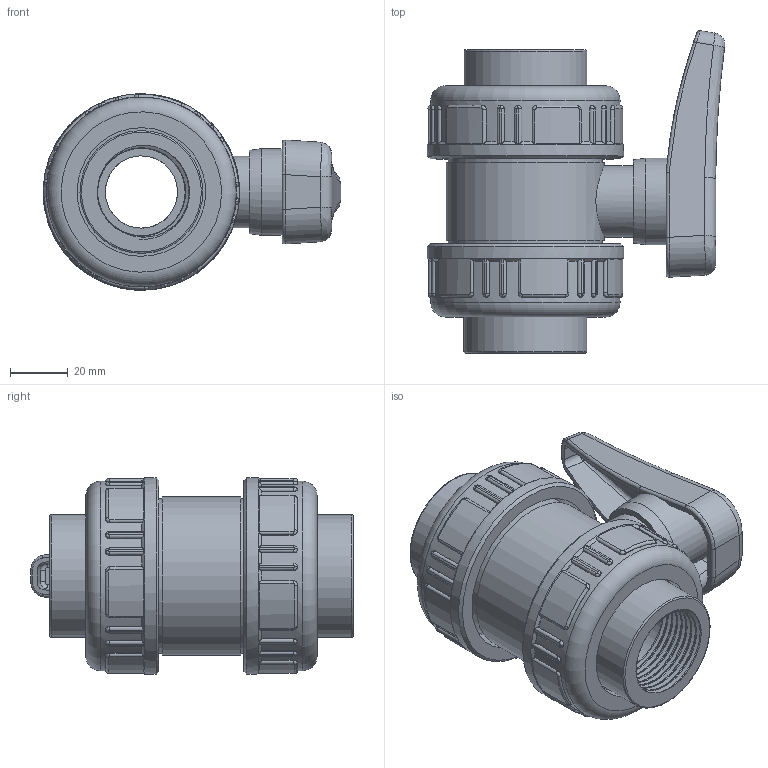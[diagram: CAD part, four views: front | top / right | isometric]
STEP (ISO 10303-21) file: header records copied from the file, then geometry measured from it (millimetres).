
FILE_DESCRIPTION(/* description */ (''),/* implementation_level */ '2;1');
FILE_NAME(/* name */ 'C:\Users\POLYPIPE\Desktop\DATASET INVENTOR\LIBRERIA EFFAST\3D_VALVOLE\3D_VALVOLE A SFERA\3D_BV\3D_BERBVE\3D_BERBVE032D.stp',/* time_stamp */ '2018-01-24T09:58:01+01:00',/* author */ ('POLYPIPE'),/* organization */ (''),/* preprocessor_version */ 'ST-DEVELOPER v16.1',/* originating_system */ 'Autodesk Inventor 2016',/* authorisation */ '');
FILE_SCHEMA (('CONFIG_CONTROL_DESIGN'));
Length unit declared in the file: centimetre
Products named in the file (1): 3D_BERBVE032D
Bounding box: 103.02 x 111.56 x 68 mm (x, y, z)
Volume: 229003.9 mm3; surface area: 68862.3 mm2
Topology: 1 solids, 1 shells, 517 faces, 1346 edges, 845 vertices
Faces by surface type: bspline 172, plane 167, cylinder 157, torus 16, cone 5
Full cylindrical faces by diameter (mm): 15.8 x1, 24.7 x1, 25 x1, 30 x1, 30.291 x2, 42.5 x2, 44.5 x2, 51 x2, 53.3 x2, 54.7 x1, 56.7 x2, 65.5 x2, 68 x2
Entity records: 66602 total; most frequent: CARTESIAN_POINT 54403, ORIENTED_EDGE 2610, DIRECTION 2114, EDGE_CURVE 1305, VERTEX_POINT 834, AXIS2_PLACEMENT_3D 806, EDGE_LOOP 565, STYLED_ITEM 518
